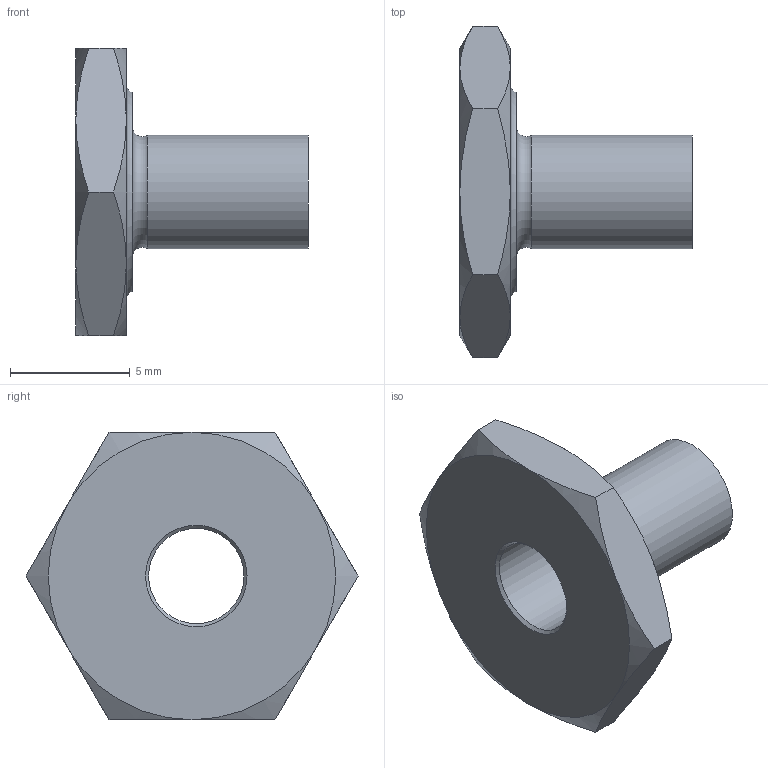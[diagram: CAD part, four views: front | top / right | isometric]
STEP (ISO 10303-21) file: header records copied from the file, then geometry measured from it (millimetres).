
FILE_DESCRIPTION( ( 'STEP AP214' ), '1' );
FILE_NAME( 'p:/temp/worker_43/temp/app_57_02019012316283843854826192d056f_000000_00_00_000000/format_0/M1PWBX.stp', '2019-01-23T15:28:39', ( '' ), ( '' ), ' ', 'PARTsolutions', ' ' );
FILE_SCHEMA( ( 'AUTOMOTIVE_DESIGN { 1 0 10303 214 1 1 1 1 }' ) );
Length unit declared in the file: inch
Products named in the file (1): _M1PWBX
Bounding box: 9.7 x 13.86 x 12 mm (x, y, z)
Volume: 282.9 mm3; surface area: 530.7 mm2
Topology: 1 solids, 1 shells, 28 faces, 57 edges, 33 vertices
Faces by surface type: cone 14, plane 10, cylinder 2, torus 2
Full cylindrical faces by diameter (mm): 3.98 x1, 4.75 x1
Entity records: 1008 total; most frequent: CARTESIAN_POINT 233, DIRECTION 106, ORIENTED_EDGE 102, EDGE_CURVE 51, AXIS2_PLACEMENT_3D 50, EDGE_LOOP 38, VERTEX_POINT 33, FACE_OUTER_BOUND 32
